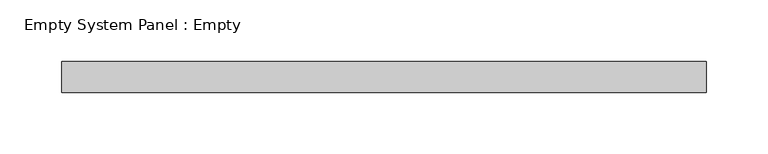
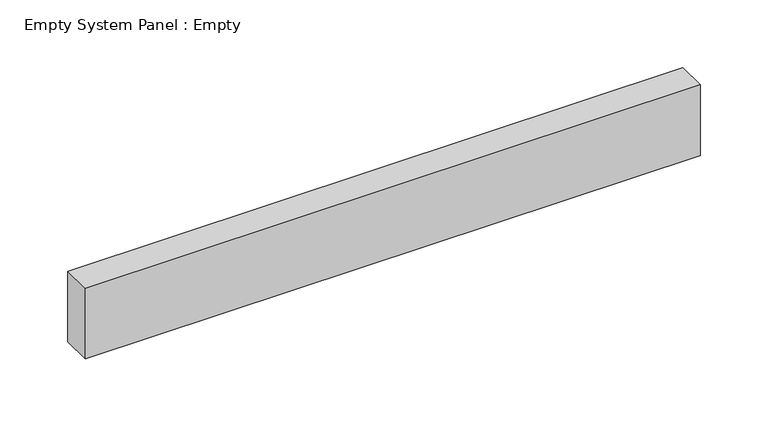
"""IFC4 building model written with IfcOpenShell, lengths in millimetres: plate geometry, Empty System Panel : Empty."""

import ifcopenshell
import ifcopenshell.guid

model = None  # the IFC model being written
_history = None  # IfcOwnerHistory: only IFC2X3 demands one
_inside = {}  # id of a spatial element -> (the spatial element, [elements in it])
_under = {}  # id of a project, library or spatial element -> (it, [spatial elements below it])
_declared = {}  # id of a project -> (the project, [libraries it declares])
_typed = {}  # id of a type object -> (the type object, [elements of that type])
_made_of = {}  # id of a material, layer set ... -> (it, [elements and type objects made of it])


def new_model(schema):
    """Start an empty IFC model of exactly this schema.

    Asked for "IFC4X3", IfcOpenShell would pick the latest addendum, in which some entities
    have other attributes; the version numbers below select the first issue.
    IFC2X3 requires an IfcOwnerHistory on every rooted entity: one is made here for all.
    """
    global model, _history
    if schema == "IFC4X3":
        model = ifcopenshell.file(schema_version=(4, 3, 0, 0))
    else:
        model = ifcopenshell.file(schema=schema)
    _inside.clear()
    _under.clear()
    _declared.clear()
    _typed.clear()
    _made_of.clear()
    _history = None
    if model.schema == "IFC2X3":
        org = make("IfcOrganization", Name="unknown")
        user = make(
            "IfcPersonAndOrganization",
            ThePerson=make("IfcPerson", FamilyName="unknown"),
            TheOrganization=org,
        )
        app = make(
            "IfcApplication",
            ApplicationDeveloper=org,
            Version="unknown",
            ApplicationFullName="unknown",
            ApplicationIdentifier="unknown",
        )
        _history = make(
            "IfcOwnerHistory",
            OwningUser=user,
            OwningApplication=app,
            ChangeAction="ADDED",
            CreationDate=0,
        )
    return model


def make(cls, **values):
    """One entity of the class cls with the attributes given. An attribute that is None is left unset."""
    return model.create_entity(
        cls, **{name: value for name, value in values.items() if value is not None}
    )


def rooted(cls, **values):
    """An entity with a GlobalId (a new one), such as an element, a storey or a relation."""
    return make(cls, GlobalId=ifcopenshell.guid.new(), OwnerHistory=_history, **values)


def si_unit(unit_type, name, prefix=None):
    """IfcSIUnit, for example si_unit("LENGTHUNIT", "METRE", prefix="MILLI")."""
    return make("IfcSIUnit", UnitType=unit_type, Prefix=prefix, Name=name)


def assignment(units):
    """IfcUnitAssignment: the units of a project."""
    return None if units is None else make("IfcUnitAssignment", Units=units)


def point(xyz):
    """IfcCartesianPoint."""
    return None if xyz is None else make("IfcCartesianPoint", Coordinates=xyz)


def direction(xyz):
    """IfcDirection."""
    return None if xyz is None else make("IfcDirection", DirectionRatios=xyz)


def frame(location, z_axis=None, x_axis=None):
    """IfcAxis2Placement3D, a coordinate frame: its origin and axes. An axis left out is left unset."""
    return make(
        "IfcAxis2Placement3D",
        Location=point(location),
        Axis=direction(z_axis),
        RefDirection=direction(x_axis),
    )


def origin():
    """The frame at (0, 0, 0) with its axes left unset."""
    return frame((0.0, 0.0, 0.0))


def origin_with_axes():
    """The frame at (0, 0, 0) with the z axis (0, 0, 1) and the x axis (1, 0, 0) written out."""
    return frame((0.0, 0.0, 0.0), z_axis=(0.0, 0.0, 1.0), x_axis=(1.0, 0.0, 0.0))


def place(relative_to, where):
    """IfcLocalPlacement: puts the frame where relative to a parent placement (None: the world)."""
    return make(
        "IfcLocalPlacement", PlacementRelTo=relative_to, RelativePlacement=where
    )


def context(
    kind, dimensions, precision=None, world=None, true_north=None, identifier=None
):
    """IfcGeometricRepresentationContext, for example the 3D "Model" context."""
    return make(
        "IfcGeometricRepresentationContext",
        ContextIdentifier=identifier,
        ContextType=kind,
        CoordinateSpaceDimension=dimensions,
        Precision=precision,
        WorldCoordinateSystem=world,
        TrueNorth=true_north,
    )


def project(units=None, contexts=None):
    """IfcProject with its units and contexts."""
    return rooted(
        "IfcProject",
        Name="project",
        RepresentationContexts=contexts,
        UnitsInContext=assignment(units),
    )


def spatial(cls, under=None, at=None, **own):
    """A site, building, storey or space (cls), placed at a placement, below another one or the project."""
    s = rooted(cls, ObjectPlacement=at, **own)
    if under is not None:
        _under.setdefault(under.id(), (under, []))[1].append(s)
    return s


def polyline(points):
    """IfcPolyline through the points."""
    return make("IfcPolyline", Points=[point(p) for p in points])


def outline(outer, holes=None, kind="AREA"):
    """IfcArbitraryClosedProfileDef: a profile drawn as a closed curve; with holes, ...WithVoids."""
    if holes is None:
        return make("IfcArbitraryClosedProfileDef", ProfileType=kind, OuterCurve=outer)
    return make(
        "IfcArbitraryProfileDefWithVoids",
        ProfileType=kind,
        OuterCurve=outer,
        InnerCurves=holes,
    )


def extrude(swept, where, along, depth):
    """IfcExtrudedAreaSolid: the profile swept, set in the frame where, extruded along a direction by depth."""
    return make(
        "IfcExtrudedAreaSolid",
        SweptArea=swept,
        Position=where,
        ExtrudedDirection=direction(along),
        Depth=depth,
    )


def shape(context_of_items, identifier, shape_type, items):
    """IfcShapeRepresentation: the items that make up one representation, for example the "Body"."""
    return make(
        "IfcShapeRepresentation",
        ContextOfItems=context_of_items,
        RepresentationIdentifier=identifier,
        RepresentationType=shape_type,
        Items=items,
    )


def source(mapping_origin, context_of_items, identifier, shape_type, items):
    """IfcRepresentationMap: a shape defined once, which mapped items show again and again."""
    return make(
        "IfcRepresentationMap",
        MappingOrigin=mapping_origin,
        MappedRepresentation=shape(context_of_items, identifier, shape_type, items),
    )


def transform(
    local_origin,
    x_axis=None,
    y_axis=None,
    z_axis=None,
    scale=None,
    scale2=None,
    scale3=None,
    uniform=True,
):
    """IfcCartesianTransformationOperator3D, or its non-uniform kind. x_axis, y_axis, z_axis: its Axis1, 2, 3."""
    if uniform:
        return make(
            "IfcCartesianTransformationOperator3D",
            Axis1=direction(x_axis),
            Axis2=direction(y_axis),
            LocalOrigin=point(local_origin),
            Scale=scale,
            Axis3=direction(z_axis),
        )
    return make(
        "IfcCartesianTransformationOperator3DnonUniform",
        Axis1=direction(x_axis),
        Axis2=direction(y_axis),
        LocalOrigin=point(local_origin),
        Scale=scale,
        Axis3=direction(z_axis),
        Scale2=scale2,
        Scale3=scale3,
    )


def mapped(mapping_source, mapping_target):
    """IfcMappedItem: shows the shape of a source again, moved by a transform."""
    return make(
        "IfcMappedItem", MappingSource=mapping_source, MappingTarget=mapping_target
    )


def made_of(thing, what):
    """Note that an element or type object is made of a material, layer set ...; save() writes the relation."""
    if what is not None:
        _made_of.setdefault(what.id(), (what, []))[1].append(thing)
    return thing


def element(
    cls,
    number,
    at=None,
    inside=None,
    cuts=None,
    type_object=None,
    material=None,
    context=None,
    identifier="Body",
    shape_type=None,
    held_by="IfcProductDefinitionShape",
    body=None,
    shapes=None,
    **own,
):
    """One element of the class cls, such as IfcWall. Its Tag is "e" and its number.

    at: its placement. inside: the storey or other place that contains it. cuts: it is an
    opening in that element (IfcRelVoidsElement). A single representation is given by context,
    identifier, shape_type and body (its items); several are given by shapes. held_by: the class
    of the entity that holds the representations. save() writes the other relations.
    """
    e = rooted(cls, Tag="e%d" % number, ObjectPlacement=at, **own)
    if body is not None:
        shapes = [shape(context, identifier, shape_type, body)]
    if shapes is not None:
        e.Representation = make(held_by, Representations=shapes)
    if inside is not None:
        _inside.setdefault(inside.id(), (inside, []))[1].append(e)
    if cuts is not None:
        rooted(
            "IfcRelVoidsElement", RelatingBuildingElement=cuts, RelatedOpeningElement=e
        )
    if type_object is not None:
        _typed.setdefault(type_object.id(), (type_object, []))[1].append(e)
    return made_of(e, material)


def aggregate(whole, parts):
    """IfcRelAggregates: a whole, such as a stair, and the parts it consists of."""
    return rooted("IfcRelAggregates", RelatingObject=whole, RelatedObjects=parts)


def save(model, path):
    """Write the relations noted so far, then the file.

    IfcRelAggregates (storeys below a building ...), IfcRelContainedInSpatialStructure (elements
    in a storey), IfcRelDefinesByType, IfcRelAssociatesMaterial and IfcRelDeclares: one each for
    every whole, place, type object, material and project.
    """
    for whole, parts in _under.values():
        aggregate(whole, parts)
    for where, things in _inside.values():
        rooted(
            "IfcRelContainedInSpatialStructure",
            RelatedElements=things,
            RelatingStructure=where,
        )
    for kind, things in _typed.values():
        rooted("IfcRelDefinesByType", RelatedObjects=things, RelatingType=kind)
    for what, things in _made_of.values():
        rooted("IfcRelAssociatesMaterial", RelatedObjects=things, RelatingMaterial=what)
    for by, libraries in _declared.values():
        rooted("IfcRelDeclares", RelatingContext=by, RelatedDefinitions=libraries)
    model.write(path)


def empty_system_panel_empty_c0168101(model_context):
    return source(origin(), model_context, "Body", "SweptSolid", [
        extrude(outline(polyline([(261.7073925, 19.05), (-261.7073925, 19.05), (-261.7073925, 44.45), (261.7073925, 44.45), (261.7073925, 19.05)])), origin_with_axes(), (0.0, 0.0, 1.0), 63.5),
    ])


if __name__ == "__main__":
    model = new_model("IFC4")
    model_context = context("Model", 3, world=origin())
    ifc_project = project(units=[si_unit("LENGTHUNIT", "METRE", prefix="MILLI")], contexts=[model_context])
    site = spatial("IfcSite", under=ifc_project)
    building = spatial("IfcBuilding", under=site)
    placement = place(None, origin())
    empty_system_panel_empty_shape = empty_system_panel_empty_c0168101(model_context)
    element("IfcPlate", 1, ObjectType="Empty System Panel : Empty", at=placement, inside=building, context=model_context, shape_type="MappedRepresentation", body=[
        mapped(empty_system_panel_empty_shape, transform((0.0, 0.0, 0.0), x_axis=(1.0, 0.0, 0.0), y_axis=(0.0, 1.0, 0.0), z_axis=(0.0, 0.0, 1.0))),
    ])
    save(model, "model.ifc")
